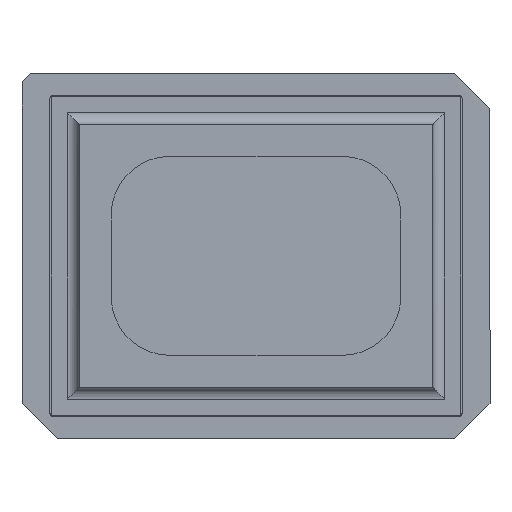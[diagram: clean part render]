
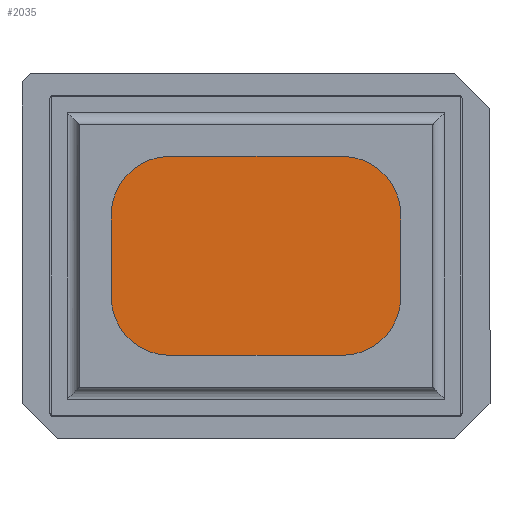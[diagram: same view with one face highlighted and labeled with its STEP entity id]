
A CAD part, top view. The second image highlights one B-rep face of the part: STEP entity #2035.
In plain terms, the highlighted planar face has unit normal (0, 0, 1).
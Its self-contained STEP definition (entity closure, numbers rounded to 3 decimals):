
#4 = ORIENTED_EDGE ( 'NONE', *, *, #659, .T. ) ;
#40 = VECTOR ( 'NONE', #74, 1000. ) ;
#64 = CARTESIAN_POINT ( 'NONE',  ( 7.493, 3.556, 2.997 ) ) ;
#74 = DIRECTION ( 'NONE',  ( 1., 0., 0. ) ) ;
#76 = CARTESIAN_POINT ( 'NONE',  ( -7.493, 8.636, 2.997 ) ) ;
#123 = EDGE_CURVE ( 'NONE', #610, #1409, #911, .T. ) ;
#150 = CARTESIAN_POINT ( 'NONE',  ( -7.493, 3.556, 2.997 ) ) ;
#159 = DIRECTION ( 'NONE',  ( 1., 0., 0. ) ) ;
#184 = DIRECTION ( 'NONE',  ( 0., -1., 0. ) ) ;
#222 = VERTEX_POINT ( 'NONE', #766 ) ;
#252 = CARTESIAN_POINT ( 'NONE',  ( 7.493, 8.636, 2.997 ) ) ;
#261 = LINE ( 'NONE', #1329, #558 ) ;
#363 = VERTEX_POINT ( 'NONE', #489 ) ;
#424 = CARTESIAN_POINT ( 'NONE',  ( 7.493, -3.556, 2.997 ) ) ;
#489 = CARTESIAN_POINT ( 'NONE',  ( 12.573, 3.556, 2.997 ) ) ;
#558 = VECTOR ( 'NONE', #1138, 1000. ) ;
#591 = AXIS2_PLACEMENT_3D ( 'NONE', #2423, #672, #831 ) ;
#606 = AXIS2_PLACEMENT_3D ( 'NONE', #150, #1312, #159 ) ;
#610 = VERTEX_POINT ( 'NONE', #76 ) ;
#613 = DIRECTION ( 'NONE',  ( 0., 0., 1. ) ) ;
#659 = EDGE_CURVE ( 'NONE', #1543, #222, #1915, .T. ) ;
#672 = DIRECTION ( 'NONE',  ( 0., 0., 1. ) ) ;
#766 = CARTESIAN_POINT ( 'NONE',  ( -7.493, -8.636, 2.997 ) ) ;
#831 = DIRECTION ( 'NONE',  ( 1., 0., 0. ) ) ;
#858 = CARTESIAN_POINT ( 'NONE',  ( -12.573, -8.636, 2.997 ) ) ;
#869 = ORIENTED_EDGE ( 'NONE', *, *, #2187, .T. ) ;
#876 = ORIENTED_EDGE ( 'NONE', *, *, #2425, .T. ) ;
#911 = CIRCLE ( 'NONE', #606, 5.08 ) ;
#1070 = VECTOR ( 'NONE', #1587, 1000. ) ;
#1071 = EDGE_CURVE ( 'NONE', #363, #2370, #2023, .T. ) ;
#1113 = EDGE_CURVE ( 'NONE', #2110, #1636, #2355, .T. ) ;
#1138 = DIRECTION ( 'NONE',  ( 0., 1., 0. ) ) ;
#1156 = FACE_OUTER_BOUND ( 'NONE', #1783, .T. ) ;
#1171 = ORIENTED_EDGE ( 'NONE', *, *, #1071, .T. ) ;
#1229 = ORIENTED_EDGE ( 'NONE', *, *, #1611, .T. ) ;
#1280 = CARTESIAN_POINT ( 'NONE',  ( -12.573, 3.556, 2.997 ) ) ;
#1312 = DIRECTION ( 'NONE',  ( 0., 0., 1. ) ) ;
#1314 = LINE ( 'NONE', #1619, #40 ) ;
#1329 = CARTESIAN_POINT ( 'NONE',  ( 12.573, -8.636, 2.997 ) ) ;
#1337 = CARTESIAN_POINT ( 'NONE',  ( -12.573, 8.636, 2.997 ) ) ;
#1365 = AXIS2_PLACEMENT_3D ( 'NONE', #64, #2007, #1617 ) ;
#1409 = VERTEX_POINT ( 'NONE', #1280 ) ;
#1471 = DIRECTION ( 'NONE',  ( 0., 0., 1. ) ) ;
#1539 = CARTESIAN_POINT ( 'NONE',  ( -12.573, -3.556, 2.997 ) ) ;
#1543 = VERTEX_POINT ( 'NONE', #1539 ) ;
#1587 = DIRECTION ( 'NONE',  ( -1., 0., 0. ) ) ;
#1611 = EDGE_CURVE ( 'NONE', #2370, #610, #1756, .T. ) ;
#1617 = DIRECTION ( 'NONE',  ( 1., 0., 0. ) ) ;
#1619 = CARTESIAN_POINT ( 'NONE',  ( -12.573, -8.636, 2.997 ) ) ;
#1636 = VERTEX_POINT ( 'NONE', #1981 ) ;
#1652 = VECTOR ( 'NONE', #184, 1000. ) ;
#1724 = AXIS2_PLACEMENT_3D ( 'NONE', #424, #613, #2375 ) ;
#1756 = LINE ( 'NONE', #2361, #1070 ) ;
#1783 = EDGE_LOOP ( 'NONE', ( #1229, #2220, #869, #4, #876, #2494, #2074, #1171 ) ) ;
#1915 = CIRCLE ( 'NONE', #591, 5.08 ) ;
#1917 = CARTESIAN_POINT ( 'NONE',  ( 7.493, -8.636, 2.997 ) ) ;
#1981 = CARTESIAN_POINT ( 'NONE',  ( 12.573, -3.556, 2.997 ) ) ;
#2007 = DIRECTION ( 'NONE',  ( 0., 0., 1. ) ) ;
#2023 = CIRCLE ( 'NONE', #1365, 5.08 ) ;
#2035 = ADVANCED_FACE ( 'NONE', ( #1156 ), #2235, .T. ) ;
#2045 = LINE ( 'NONE', #1337, #1652 ) ;
#2074 = ORIENTED_EDGE ( 'NONE', *, *, #2162, .T. ) ;
#2087 = AXIS2_PLACEMENT_3D ( 'NONE', #858, #1471, #2420 ) ;
#2110 = VERTEX_POINT ( 'NONE', #1917 ) ;
#2162 = EDGE_CURVE ( 'NONE', #1636, #363, #261, .T. ) ;
#2187 = EDGE_CURVE ( 'NONE', #1409, #1543, #2045, .T. ) ;
#2220 = ORIENTED_EDGE ( 'NONE', *, *, #123, .T. ) ;
#2235 = PLANE ( 'NONE',  #2087 ) ;
#2355 = CIRCLE ( 'NONE', #1724, 5.08 ) ;
#2361 = CARTESIAN_POINT ( 'NONE',  ( 12.573, 8.636, 2.997 ) ) ;
#2370 = VERTEX_POINT ( 'NONE', #252 ) ;
#2375 = DIRECTION ( 'NONE',  ( 1., 0., 0. ) ) ;
#2420 = DIRECTION ( 'NONE',  ( 1., 0., 0. ) ) ;
#2423 = CARTESIAN_POINT ( 'NONE',  ( -7.493, -3.556, 2.997 ) ) ;
#2425 = EDGE_CURVE ( 'NONE', #222, #2110, #1314, .T. ) ;
#2494 = ORIENTED_EDGE ( 'NONE', *, *, #1113, .T. ) ;
